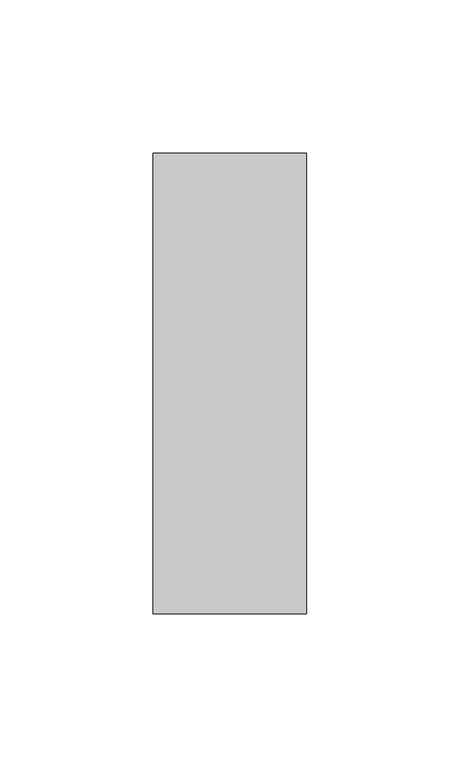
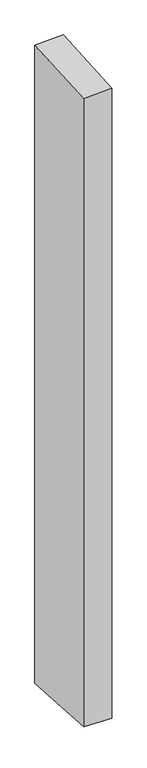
"""IFC4 building model written with IfcOpenShell, lengths in millimetres: member geometry, Прямоугольный импост : 50 x 150 мм."""

from ifc_helpers import new_model, si_unit, origin, place, context, project, spatial, faceted_brep, source, transform, mapped, element, save


def member_6acc7a5f(model_context):
    return source(origin(), model_context, "Body", "Brep", [
        faceted_brep([(-25.0, 75.0, 3.4899183), (25.0, 75.0, 5.8276791), (25.0, 75.0, -1197.7666375), (-25.0, 75.0, -1195.4347095), (-25.0, -75.0, -5.8276791), (-25.0, -75.0, -1185.418248), (25.0, -75.0, -3.4899183), (25.0, -75.0, -1187.750176)], [[[0, 1, 2, 3]], [[4, 0, 3, 5]], [[6, 4, 5, 7]], [[1, 6, 7, 2]], [[1, 0, 4, 6]], [[2, 7, 5, 3]]]),
    ])


if __name__ == "__main__":
    model = new_model("IFC4")
    model_context = context("Model", 3, world=origin())
    ifc_project = project(units=[si_unit("LENGTHUNIT", "METRE", prefix="MILLI")], contexts=[model_context])
    site = spatial("IfcSite", under=ifc_project)
    building = spatial("IfcBuilding", under=site)
    placement = place(None, origin())
    member_shape = member_6acc7a5f(model_context)
    element("IfcMember", 1, ObjectType="Прямоугольный импост : 50 x 150 мм", at=placement, inside=building, context=model_context, shape_type="MappedRepresentation", body=[
        mapped(member_shape, transform((0.0, 0.0, 0.0), x_axis=(1.0, 0.0, 0.0), y_axis=(0.0, 1.0, 0.0), z_axis=(0.0, 0.0, 1.0))),
    ])
    save(model, "model.ifc")
